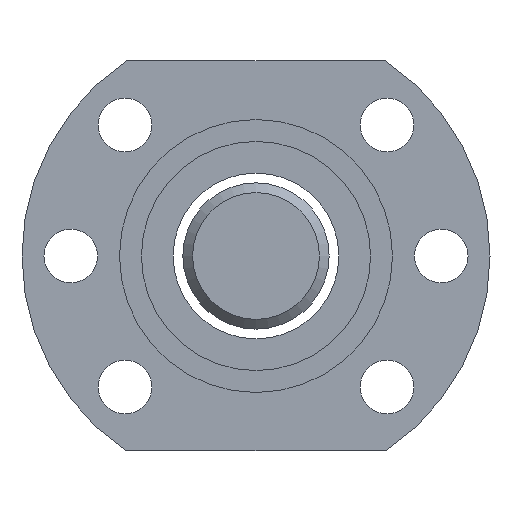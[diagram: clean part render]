
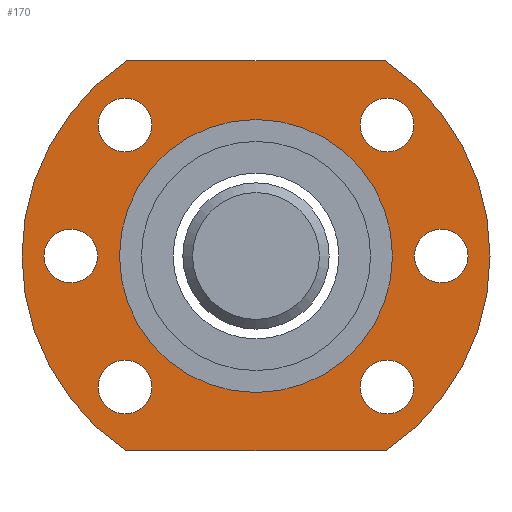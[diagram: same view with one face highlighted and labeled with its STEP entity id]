
A CAD part, left-side view. The second image highlights one B-rep face of the part: STEP entity #170.
In plain terms, the highlighted planar face has unit normal (-1, 0, 0).
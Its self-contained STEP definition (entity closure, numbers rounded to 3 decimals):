
#116=LINE('',#1136,#124);
#117=LINE('',#1140,#125);
#124=VECTOR('',#933,1.);
#125=VECTOR('',#936,1.);
#139=PLANE('',#785);
#170=ADVANCED_FACE('',(#270,#271,#272,#273,#274,#275,#276,#277),#139,.T.);
#270=FACE_BOUND('',#370,.T.);
#271=FACE_BOUND('',#371,.T.);
#272=FACE_BOUND('',#372,.T.);
#273=FACE_BOUND('',#373,.T.);
#274=FACE_BOUND('',#374,.T.);
#275=FACE_BOUND('',#375,.T.);
#276=FACE_BOUND('',#376,.T.);
#277=FACE_BOUND('',#377,.T.);
#370=EDGE_LOOP('',(#479));
#371=EDGE_LOOP('',(#480));
#372=EDGE_LOOP('',(#481,#482,#483,#484));
#373=EDGE_LOOP('',(#485));
#374=EDGE_LOOP('',(#486));
#375=EDGE_LOOP('',(#487));
#376=EDGE_LOOP('',(#488));
#377=EDGE_LOOP('',(#489));
#479=ORIENTED_EDGE('',*,*,#644,.T.);
#480=ORIENTED_EDGE('',*,*,#633,.F.);
#481=ORIENTED_EDGE('',*,*,#645,.T.);
#482=ORIENTED_EDGE('',*,*,#646,.T.);
#483=ORIENTED_EDGE('',*,*,#647,.T.);
#484=ORIENTED_EDGE('',*,*,#648,.T.);
#485=ORIENTED_EDGE('',*,*,#649,.F.);
#486=ORIENTED_EDGE('',*,*,#650,.F.);
#487=ORIENTED_EDGE('',*,*,#651,.F.);
#488=ORIENTED_EDGE('',*,*,#652,.T.);
#489=ORIENTED_EDGE('',*,*,#653,.T.);
#575=VERTEX_POINT('',#1108);
#586=VERTEX_POINT('',#1132);
#587=VERTEX_POINT('',#1134);
#588=VERTEX_POINT('',#1135);
#589=VERTEX_POINT('',#1137);
#590=VERTEX_POINT('',#1139);
#591=VERTEX_POINT('',#1142);
#592=VERTEX_POINT('',#1144);
#593=VERTEX_POINT('',#1146);
#594=VERTEX_POINT('',#1148);
#595=VERTEX_POINT('',#1150);
#633=EDGE_CURVE('',#575,#575,#695,.T.);
#644=EDGE_CURVE('',#586,#586,#704,.T.);
#645=EDGE_CURVE('',#587,#588,#705,.T.);
#646=EDGE_CURVE('',#588,#589,#116,.T.);
#647=EDGE_CURVE('',#589,#590,#706,.T.);
#648=EDGE_CURVE('',#590,#587,#117,.T.);
#649=EDGE_CURVE('',#591,#591,#707,.T.);
#650=EDGE_CURVE('',#592,#592,#708,.T.);
#651=EDGE_CURVE('',#593,#593,#709,.T.);
#652=EDGE_CURVE('',#594,#594,#710,.T.);
#653=EDGE_CURVE('',#595,#595,#711,.T.);
#695=CIRCLE('',#766,14.);
#704=CIRCLE('',#777,2.75);
#705=CIRCLE('',#778,24.);
#706=CIRCLE('',#779,24.);
#707=CIRCLE('',#780,2.75);
#708=CIRCLE('',#781,2.75);
#709=CIRCLE('',#782,2.75);
#710=CIRCLE('',#783,2.75);
#711=CIRCLE('',#784,2.75);
#766=AXIS2_PLACEMENT_3D('',#1107,#905,#906);
#777=AXIS2_PLACEMENT_3D('',#1131,#929,#930);
#778=AXIS2_PLACEMENT_3D('',#1133,#931,#932);
#779=AXIS2_PLACEMENT_3D('',#1138,#934,#935);
#780=AXIS2_PLACEMENT_3D('',#1141,#937,#938);
#781=AXIS2_PLACEMENT_3D('',#1143,#939,#940);
#782=AXIS2_PLACEMENT_3D('',#1145,#941,#942);
#783=AXIS2_PLACEMENT_3D('',#1147,#943,#944);
#784=AXIS2_PLACEMENT_3D('',#1149,#945,#946);
#785=AXIS2_PLACEMENT_3D('',#1151,#947,#948);
#905=DIRECTION('',(-1.,0.,0.));
#906=DIRECTION('',(0.,0.,-1.));
#929=DIRECTION('',(1.,0.,0.));
#930=DIRECTION('',(0.,0.,1.));
#931=DIRECTION('',(-1.,0.,0.));
#932=DIRECTION('',(0.,0.,-1.));
#933=DIRECTION('',(0.,-1.,0.));
#934=DIRECTION('',(-1.,0.,0.));
#935=DIRECTION('',(0.,0.,-1.));
#936=DIRECTION('',(0.,1.,0.));
#937=DIRECTION('',(-1.,0.,0.));
#938=DIRECTION('',(0.,0.,1.));
#939=DIRECTION('',(-1.,0.,0.));
#940=DIRECTION('',(0.,0.,1.));
#941=DIRECTION('',(-1.,0.,0.));
#942=DIRECTION('',(0.,0.,1.));
#943=DIRECTION('',(1.,0.,0.));
#944=DIRECTION('',(0.,0.,1.));
#945=DIRECTION('',(1.,0.,0.));
#946=DIRECTION('',(0.,0.,1.));
#947=DIRECTION('',(-1.,0.,0.));
#948=DIRECTION('',(0.,0.,1.));
#1107=CARTESIAN_POINT('',(-1.649,-35.938,0.));
#1108=CARTESIAN_POINT('',(-1.649,-35.938,-14.));
#1131=CARTESIAN_POINT('',(-1.649,-54.938,0.));
#1132=CARTESIAN_POINT('',(-1.649,-54.938,2.75));
#1133=CARTESIAN_POINT('',(-1.649,-35.938,0.));
#1134=CARTESIAN_POINT('',(-1.649,-22.672,20.));
#1135=CARTESIAN_POINT('',(-1.649,-22.672,-20.));
#1136=CARTESIAN_POINT('',(-1.649,-22.672,-20.));
#1137=CARTESIAN_POINT('',(-1.649,-49.205,-20.));
#1138=CARTESIAN_POINT('',(-1.649,-35.938,0.));
#1139=CARTESIAN_POINT('',(-1.649,-49.205,20.));
#1140=CARTESIAN_POINT('',(-1.649,-49.205,20.));
#1141=CARTESIAN_POINT('',(-1.649,-16.938,0.));
#1142=CARTESIAN_POINT('',(-1.649,-16.938,2.75));
#1143=CARTESIAN_POINT('',(-1.649,-22.503,13.435));
#1144=CARTESIAN_POINT('',(-1.649,-22.503,16.185));
#1145=CARTESIAN_POINT('',(-1.649,-22.503,-13.435));
#1146=CARTESIAN_POINT('',(-1.649,-22.503,-10.685));
#1147=CARTESIAN_POINT('',(-1.649,-49.373,-13.435));
#1148=CARTESIAN_POINT('',(-1.649,-49.373,-10.685));
#1149=CARTESIAN_POINT('',(-1.649,-49.373,13.435));
#1150=CARTESIAN_POINT('',(-1.649,-49.373,16.185));
#1151=CARTESIAN_POINT('',(-1.649,-35.938,0.));
